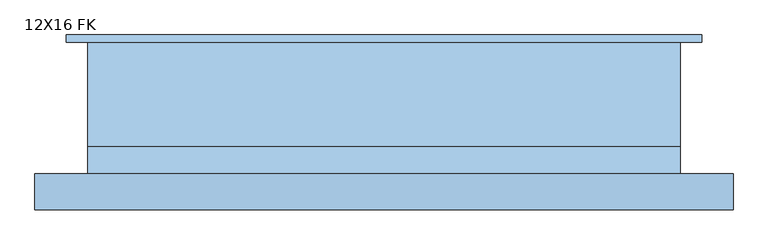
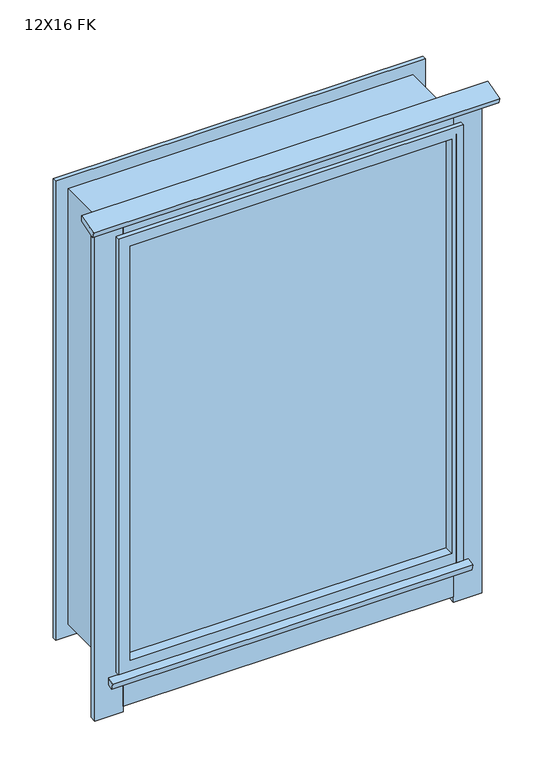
"""IFC4 building model written with IfcOpenShell, lengths in millimetres: window geometry, Vindu FK : 12X16 FK."""

from ifc_helpers import new_model, si_unit, frame, origin, place, context, project, spatial, polyline, outline, extrude, faceted_brep, source, transform, mapped, element, save


def window_12x16_fk_ab6c21ab(model_context):
    return source(origin(), model_context, "Body", "SolidModel", [
        extrude(outline(polyline([(-204.444437, 2559.1537013), (-132.0, 2578.5651297), (-132.0, 2558.8948822), (-199.5268751, 2540.8011106), (-204.444437, 2559.1537013)])), frame((-701.0, 0.0, 0.0), z_axis=(1.0, 0.0, 0.0), x_axis=(0.0, 1.0, 0.0)), (0.0, 0.0, 1.0), 1402.0),
        extrude(outline(polyline([(-180.2962913, 870.6791642), (-132.0, 883.6201165), (-132.0, 860.8440405), (-174.6022723, 849.4287961), (-180.2962913, 870.6791642)])), frame((-621.0, 0.0, 0.0), z_axis=(1.0, 0.0, 0.0), x_axis=(0.0, 1.0, 0.0)), (0.0, 0.0, 1.0), 1242.0),
        extrude(outline(polyline([(-570.0, -132.0), (570.0, -132.0), (570.0, -154.0), (-570.0, -154.0), (-570.0, -132.0)])), frame((0.0, 0.0, 757.0051732), z_axis=(0.0, 0.0, 1.0), x_axis=(1.0, 0.0, 0.0)), (0.0, 0.0, 1.0), 98.0),
        extrude(outline(polyline([(-570.0, -132.0), (570.0, -132.0), (570.0, -154.0), (-570.0, -154.0), (-570.0, -132.0)])), frame((0.0, 0.0, 2455.0), z_axis=(0.0, 0.0, 1.0), x_axis=(1.0, 0.0, 0.0)), (0.0, 0.0, 1.0), 98.0),
        extrude(outline(polyline([(668.0, -132.0), (668.0, -154.0), (570.0, -154.0), (570.0, -132.0), (668.0, -132.0)])), frame((0.0, 0.0, 737.0), z_axis=(0.0, 0.0, 1.0), x_axis=(1.0, 0.0, 0.0)), (0.0, 0.0, 1.0), 1816.0),
        extrude(outline(polyline([(-570.0, -132.0), (-570.0, -154.0), (-668.0, -154.0), (-668.0, -132.0), (-570.0, -132.0)])), frame((0.0, 0.0, 737.0), z_axis=(0.0, 0.0, 1.0), x_axis=(1.0, 0.0, 0.0)), (0.0, 0.0, 1.0), 1816.0),
        extrude(outline(polyline([(-556.0, -134.0), (-556.0, -110.0), (556.0, -110.0), (556.0, -134.0), (-556.0, -134.0)])), frame((0.0, 0.0, 929.0), z_axis=(0.0, 0.0, 1.0), x_axis=(1.0, 0.0, 0.0)), (0.0, 0.0, 1.0), 1512.0),
        faceted_brep([(-595.0, -170.0, 890.0), (-595.0, -170.0, 2480.0), (-595.0, -78.0, 2480.0), (-595.0, -78.0, 890.0), (-556.0, -110.0, 929.0), (-556.0, -110.0, 2441.0), (-556.0, -170.0, 2441.0), (-556.0, -170.0, 929.0), (-538.0, -78.0, 947.0), (-538.0, -78.0, 2423.0), (-538.0, -110.0, 2423.0), (-538.0, -110.0, 947.0), (595.0, -170.0, 2480.0), (595.0, -78.0, 2480.0), (556.0, -110.0, 2441.0), (556.0, -170.0, 2441.0), (538.0, -78.0, 2423.0), (538.0, -110.0, 2423.0), (595.0, -170.0, 890.0), (595.0, -78.0, 890.0), (556.0, -110.0, 929.0), (556.0, -170.0, 929.0), (538.0, -78.0, 947.0), (538.0, -110.0, 947.0)], [[[0, 1, 2, 3]], [[4, 5, 6, 7]], [[8, 9, 10, 11]], [[1, 12, 13, 2]], [[5, 14, 15, 6]], [[9, 16, 17, 10]], [[12, 18, 19, 13]], [[14, 20, 21, 15]], [[16, 22, 23, 17]], [[18, 0, 3, 19]], [[1, 0, 18, 12], [7, 6, 15, 21]], [[20, 4, 7, 21]], [[5, 4, 20, 14], [11, 10, 17, 23]], [[22, 8, 11, 23]], [[3, 2, 13, 19], [9, 8, 22, 16]]]),
        faceted_brep([(-595.0, 132.0, 890.0), (595.0, 132.0, 890.0), (595.0, -78.0, 890.0), (-595.0, -78.0, 890.0), (595.0, 132.0, 2480.0), (595.0, -78.0, 2480.0), (-595.0, -78.0, 2480.0), (580.0, -78.0, 2465.0), (580.0, -78.0, 905.0), (-580.0, -78.0, 905.0), (-580.0, -78.0, 2465.0), (638.0, 132.0, 847.0), (638.0, 132.0, 2523.0), (-638.0, 132.0, 2523.0), (-638.0, 132.0, 847.0), (-595.0, 132.0, 2480.0), (-638.0, 147.0, 847.0), (638.0, 147.0, 847.0), (638.0, 147.0, 2523.0), (-638.0, 147.0, 2523.0), (580.0, 147.0, 905.0), (580.0, 147.0, 2465.0), (-580.0, 147.0, 2465.0), (-580.0, 147.0, 905.0)], [[[0, 1, 2, 3]], [[1, 4, 5, 2]], [[2, 5, 6, 3], [7, 8, 9, 10]], [[11, 12, 13, 14], [4, 1, 0, 15]], [[16, 17, 11, 14]], [[17, 18, 12, 11]], [[18, 17, 16, 19], [20, 21, 22, 23]], [[9, 8, 20, 23]], [[8, 7, 21, 20]], [[15, 0, 3, 6]], [[19, 16, 14, 13]], [[10, 9, 23, 22]], [[4, 15, 6, 5]], [[18, 19, 13, 12]], [[7, 10, 22, 21]]]),
        extrude(outline(polyline([(890.0, 595.0), (2480.0, 595.0), (2480.0, -595.0), (890.0, -595.0), (890.0, -570.0), (2455.0, -570.0), (2455.0, 570.0), (890.0, 570.0), (890.0, 595.0)])), frame((0.0, -170.0, 0.0), z_axis=(0.0, 1.0, 0.0), x_axis=(0.0, 0.0, 1.0)), (0.0, 0.0, 1.0), 38.0),
    ])


if __name__ == "__main__":
    model = new_model("IFC4")
    model_context = context("Model", 3, world=origin())
    ifc_project = project(units=[si_unit("LENGTHUNIT", "METRE", prefix="MILLI")], contexts=[model_context])
    site = spatial("IfcSite", under=ifc_project)
    building = spatial("IfcBuilding", under=site)
    placement = place(None, origin())
    window_12x16_fk_shape = window_12x16_fk_ab6c21ab(model_context)
    element("IfcWindow", 1, ObjectType="Vindu FK : 12X16 FK", at=placement, inside=building, context=model_context, shape_type="MappedRepresentation", body=[
        mapped(window_12x16_fk_shape, transform((0.0, 0.0, 0.0), x_axis=(1.0, 0.0, 0.0), y_axis=(0.0, 1.0, 0.0), z_axis=(0.0, 0.0, 1.0))),
    ])
    save(model, "model.ifc")
